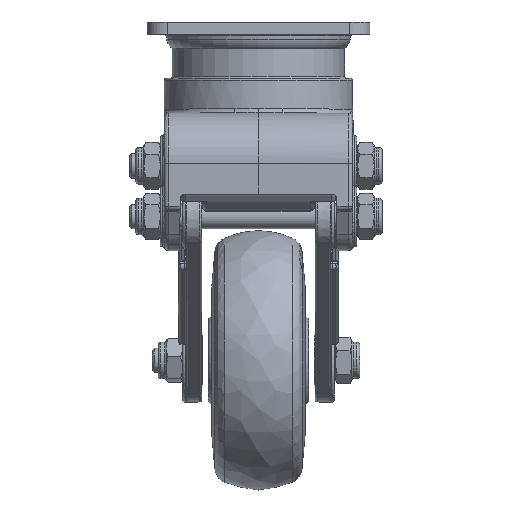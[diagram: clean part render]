
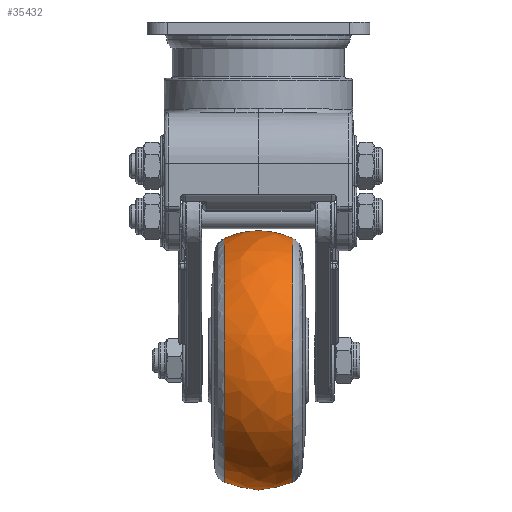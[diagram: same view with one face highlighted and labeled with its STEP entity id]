
A CAD part, left-side view. The second image highlights one B-rep face of the part: STEP entity #35432.
In plain terms, the highlighted free-form (B-spline) face has degree [2, 2] with [3, 9] control points.
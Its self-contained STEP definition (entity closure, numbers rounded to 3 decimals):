
#14=(
BOUNDED_SURFACE()
B_SPLINE_SURFACE(2,2,((#59532,#59533,#59534,#59535,#59536,#59537,#59538,
#59539,#59540),(#59541,#59542,#59543,#59544,#59545,#59546,#59547,#59548,
#59549),(#59550,#59551,#59552,#59553,#59554,#59555,#59556,#59557,#59558)),
 .UNSPECIFIED.,.F.,.T.,.F.)
B_SPLINE_SURFACE_WITH_KNOTS((3,3),(3,2,2,2,3),(-0.438,0.438),
(-3.142,-1.571,0.,1.571,3.142),
 .UNSPECIFIED.)
GEOMETRIC_REPRESENTATION_ITEM()
RATIONAL_B_SPLINE_SURFACE(((1.,0.707,1.,0.707,1.,
0.707,1.,0.707,1.),(0.906,0.64,
0.906,0.64,0.906,0.64,0.906,
0.64,0.906),(1.,0.707,1.,0.707,
1.,0.707,1.,0.707,1.)))
REPRESENTATION_ITEM('')
SURFACE()
);
#6329=FACE_OUTER_BOUND('',#8408,.T.);
#8408=EDGE_LOOP('',(#29644,#29645,#29646,#29647,#29648,#29649,#29650,#29651));
#14828=CIRCLE('',#37577,30.112);
#14829=CIRCLE('',#37578,30.112);
#14830=CIRCLE('',#37579,20.);
#14831=CIRCLE('',#37580,30.112);
#14832=CIRCLE('',#37581,30.112);
#14833=CIRCLE('',#37582,30.112);
#14834=CIRCLE('',#37583,30.112);
#17392=VERTEX_POINT('',#59559);
#17393=VERTEX_POINT('',#59560);
#17394=VERTEX_POINT('',#59562);
#17395=VERTEX_POINT('',#59564);
#17396=VERTEX_POINT('',#59566);
#17397=VERTEX_POINT('',#59568);
#21704=EDGE_CURVE('',#17392,#17393,#14828,.T.);
#21705=EDGE_CURVE('',#17393,#17394,#14829,.T.);
#21706=EDGE_CURVE('',#17394,#17395,#14830,.T.);
#21707=EDGE_CURVE('',#17396,#17395,#14831,.T.);
#21708=EDGE_CURVE('',#17397,#17396,#14832,.T.);
#21709=EDGE_CURVE('',#17395,#17397,#14833,.T.);
#21710=EDGE_CURVE('',#17394,#17392,#14834,.T.);
#29644=ORIENTED_EDGE('',*,*,#21704,.T.);
#29645=ORIENTED_EDGE('',*,*,#21705,.T.);
#29646=ORIENTED_EDGE('',*,*,#21706,.T.);
#29647=ORIENTED_EDGE('',*,*,#21707,.F.);
#29648=ORIENTED_EDGE('',*,*,#21708,.F.);
#29649=ORIENTED_EDGE('',*,*,#21709,.F.);
#29650=ORIENTED_EDGE('',*,*,#21706,.F.);
#29651=ORIENTED_EDGE('',*,*,#21710,.T.);
#35432=ADVANCED_FACE('',(#6329),#14,.F.);
#37577=AXIS2_PLACEMENT_3D('',#59561,#42840,#42841);
#37578=AXIS2_PLACEMENT_3D('',#59563,#42842,#42843);
#37579=AXIS2_PLACEMENT_3D('',#59565,#42844,#42845);
#37580=AXIS2_PLACEMENT_3D('',#59567,#42846,#42847);
#37581=AXIS2_PLACEMENT_3D('',#59569,#42848,#42849);
#37582=AXIS2_PLACEMENT_3D('',#59570,#42850,#42851);
#37583=AXIS2_PLACEMENT_3D('',#59571,#42852,#42853);
#42840=DIRECTION('center_axis',(0.,-1.,0.));
#42841=DIRECTION('ref_axis',(-0.282,0.,-0.959));
#42842=DIRECTION('center_axis',(0.,-1.,0.));
#42843=DIRECTION('ref_axis',(-0.282,0.,-0.959));
#42844=DIRECTION('center_axis',(1.,0.,0.));
#42845=DIRECTION('ref_axis',(0.,0.,1.));
#42846=DIRECTION('center_axis',(0.,-1.,0.));
#42847=DIRECTION('ref_axis',(-0.282,0.,-0.959));
#42848=DIRECTION('center_axis',(0.,-1.,0.));
#42849=DIRECTION('ref_axis',(-0.282,0.,-0.959));
#42850=DIRECTION('center_axis',(0.,-1.,0.));
#42851=DIRECTION('ref_axis',(-0.282,0.,-0.959));
#42852=DIRECTION('center_axis',(0.,-1.,0.));
#42853=DIRECTION('ref_axis',(-0.282,0.,-0.959));
#59532=CARTESIAN_POINT('Ctrl Pts',(63.39,8.482,-13.103));
#59533=CARTESIAN_POINT('Ctrl Pts',(33.278,8.482,-13.103));
#59534=CARTESIAN_POINT('Ctrl Pts',(33.278,8.482,-43.216));
#59535=CARTESIAN_POINT('Ctrl Pts',(33.278,8.482,-73.328));
#59536=CARTESIAN_POINT('Ctrl Pts',(63.39,8.482,-73.328));
#59537=CARTESIAN_POINT('Ctrl Pts',(93.502,8.482,-73.328));
#59538=CARTESIAN_POINT('Ctrl Pts',(93.502,8.482,-43.216));
#59539=CARTESIAN_POINT('Ctrl Pts',(93.502,8.482,-13.103));
#59540=CARTESIAN_POINT('Ctrl Pts',(63.39,8.482,-13.103));
#59541=CARTESIAN_POINT('Ctrl Pts',(63.39,0.,
-9.131));
#59542=CARTESIAN_POINT('Ctrl Pts',(29.305,0.,
-9.131));
#59543=CARTESIAN_POINT('Ctrl Pts',(29.305,0.,
-43.216));
#59544=CARTESIAN_POINT('Ctrl Pts',(29.305,0.,
-77.3));
#59545=CARTESIAN_POINT('Ctrl Pts',(63.39,0.,
-77.3));
#59546=CARTESIAN_POINT('Ctrl Pts',(97.474,0.,
-77.3));
#59547=CARTESIAN_POINT('Ctrl Pts',(97.474,0.,
-43.216));
#59548=CARTESIAN_POINT('Ctrl Pts',(97.474,0.,
-9.131));
#59549=CARTESIAN_POINT('Ctrl Pts',(63.39,0.,
-9.131));
#59550=CARTESIAN_POINT('Ctrl Pts',(63.39,-8.482,-13.103));
#59551=CARTESIAN_POINT('Ctrl Pts',(33.278,-8.482,-13.103));
#59552=CARTESIAN_POINT('Ctrl Pts',(33.278,-8.482,-43.216));
#59553=CARTESIAN_POINT('Ctrl Pts',(33.278,-8.482,-73.328));
#59554=CARTESIAN_POINT('Ctrl Pts',(63.39,-8.482,-73.328));
#59555=CARTESIAN_POINT('Ctrl Pts',(93.502,-8.482,-73.328));
#59556=CARTESIAN_POINT('Ctrl Pts',(93.502,-8.482,-43.216));
#59557=CARTESIAN_POINT('Ctrl Pts',(93.502,-8.482,-13.103));
#59558=CARTESIAN_POINT('Ctrl Pts',(63.39,-8.482,-13.103));
#59559=CARTESIAN_POINT('',(54.902,8.482,-72.107));
#59560=CARTESIAN_POINT('',(71.878,8.482,-14.325));
#59561=CARTESIAN_POINT('Origin',(63.39,8.482,-43.216));
#59562=CARTESIAN_POINT('',(63.39,8.482,-13.103));
#59563=CARTESIAN_POINT('Origin',(63.39,8.482,-43.216));
#59564=CARTESIAN_POINT('',(63.39,-8.482,-13.103));
#59565=CARTESIAN_POINT('Origin',(63.39,0.,
-31.216));
#59566=CARTESIAN_POINT('',(71.878,-8.482,-14.325));
#59567=CARTESIAN_POINT('Origin',(63.39,-8.482,-43.216));
#59568=CARTESIAN_POINT('',(54.902,-8.482,-72.107));
#59569=CARTESIAN_POINT('Origin',(63.39,-8.482,-43.216));
#59570=CARTESIAN_POINT('Origin',(63.39,-8.482,-43.216));
#59571=CARTESIAN_POINT('Origin',(63.39,8.482,-43.216));
